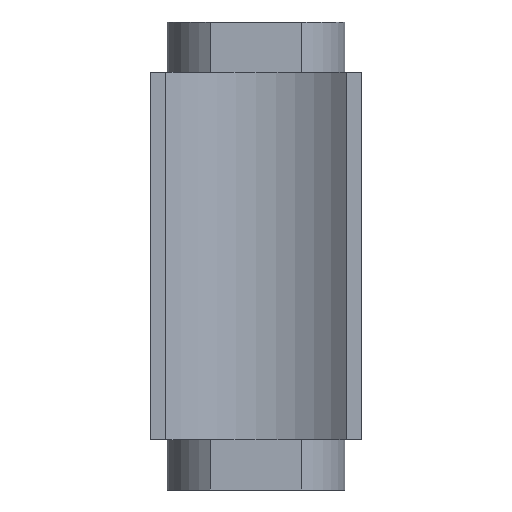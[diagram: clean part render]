
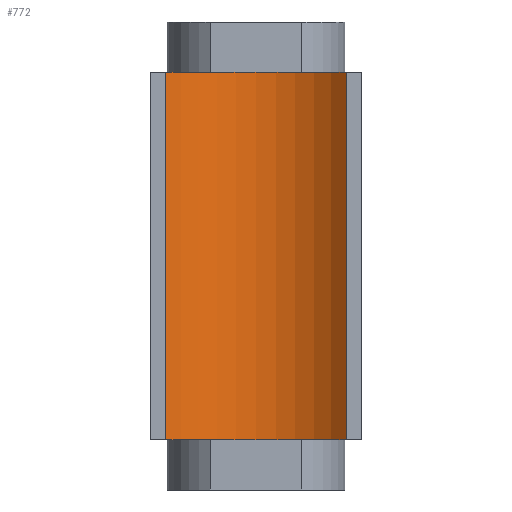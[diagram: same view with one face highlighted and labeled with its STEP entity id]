
A CAD part, front view. The second image highlights one B-rep face of the part: STEP entity #772.
In plain terms, the highlighted cylindrical face has radius 5.5 mm (diameter 11 mm), a partial arc.
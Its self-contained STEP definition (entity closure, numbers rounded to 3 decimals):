
#21=CYLINDRICAL_SURFACE('',#1156,5.5);
#29=CIRCLE('',#1146,5.5);
#35=CIRCLE('',#1154,5.5);
#36=CIRCLE('',#1157,5.5);
#37=CIRCLE('',#1158,5.5);
#72=ORIENTED_EDGE('',*,*,#284,.T.);
#73=ORIENTED_EDGE('',*,*,#269,.T.);
#74=ORIENTED_EDGE('',*,*,#283,.F.);
#75=ORIENTED_EDGE('',*,*,#285,.T.);
#76=ORIENTED_EDGE('',*,*,#280,.T.);
#77=ORIENTED_EDGE('',*,*,#286,.T.);
#269=EDGE_CURVE('',#378,#377,#29,.T.);
#280=EDGE_CURVE('',#387,#386,#35,.T.);
#283=EDGE_CURVE('',#388,#377,#453,.T.);
#284=EDGE_CURVE('',#389,#378,#36,.T.);
#285=EDGE_CURVE('',#388,#387,#37,.T.);
#286=EDGE_CURVE('',#386,#389,#454,.T.);
#377=VERTEX_POINT('',#1426);
#378=VERTEX_POINT('',#1428);
#386=VERTEX_POINT('',#1448);
#387=VERTEX_POINT('',#1450);
#388=VERTEX_POINT('',#1454);
#389=VERTEX_POINT('',#1458);
#453=LINE('',#1455,#539);
#454=LINE('',#1460,#540);
#539=VECTOR('',#1241,1000.);
#540=VECTOR('',#1248,1000.);
#620=EDGE_LOOP('',(#72,#73,#74,#75,#76,#77));
#660=FACE_BOUND('',#620,.T.);
#772=ADVANCED_FACE('',(#660),#21,.F.);
#1146=AXIS2_PLACEMENT_3D('',#1427,#1214,#1215);
#1154=AXIS2_PLACEMENT_3D('',#1449,#1235,#1236);
#1156=AXIS2_PLACEMENT_3D('',#1456,#1242,#1243);
#1157=AXIS2_PLACEMENT_3D('',#1457,#1244,#1245);
#1158=AXIS2_PLACEMENT_3D('',#1459,#1246,#1247);
#1214=DIRECTION('',(0.,0.,1.));
#1215=DIRECTION('',(-0.714,-0.7,0.));
#1235=DIRECTION('',(0.,0.,-1.));
#1236=DIRECTION('',(-0.714,-0.7,0.));
#1241=DIRECTION('',(0.,0.,1.));
#1242=DIRECTION('',(0.,0.,-1.));
#1243=DIRECTION('',(0.,-1.,0.));
#1244=DIRECTION('',(0.,0.,1.));
#1245=DIRECTION('',(-0.714,-0.7,0.));
#1246=DIRECTION('',(0.,0.,-1.));
#1247=DIRECTION('',(-0.714,-0.7,0.));
#1248=DIRECTION('',(0.,0.,1.));
#1426=CARTESIAN_POINT('',(-3.926,-3.148,8.));
#1427=CARTESIAN_POINT('',(0.,-7.,8.));
#1428=CARTESIAN_POINT('',(0.,-1.5,8.));
#1448=CARTESIAN_POINT('',(3.926,-3.148,-8.));
#1449=CARTESIAN_POINT('',(0.,-7.,-8.));
#1450=CARTESIAN_POINT('',(0.,-1.5,-8.));
#1454=CARTESIAN_POINT('',(-3.926,-3.148,-8.));
#1455=CARTESIAN_POINT('',(-3.926,-3.148,-8.));
#1456=CARTESIAN_POINT('',(0.,-7.,0.));
#1457=CARTESIAN_POINT('',(0.,-7.,8.));
#1458=CARTESIAN_POINT('',(3.926,-3.148,8.));
#1459=CARTESIAN_POINT('',(0.,-7.,-8.));
#1460=CARTESIAN_POINT('',(3.926,-3.148,-8.));
